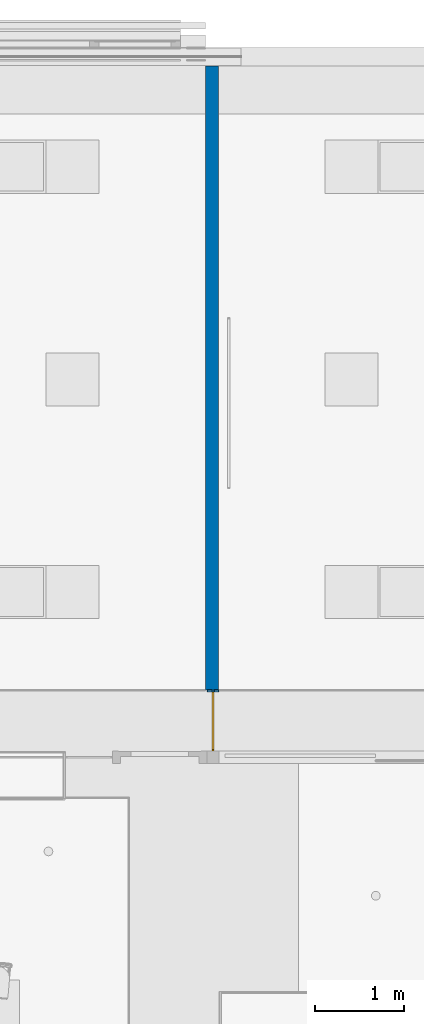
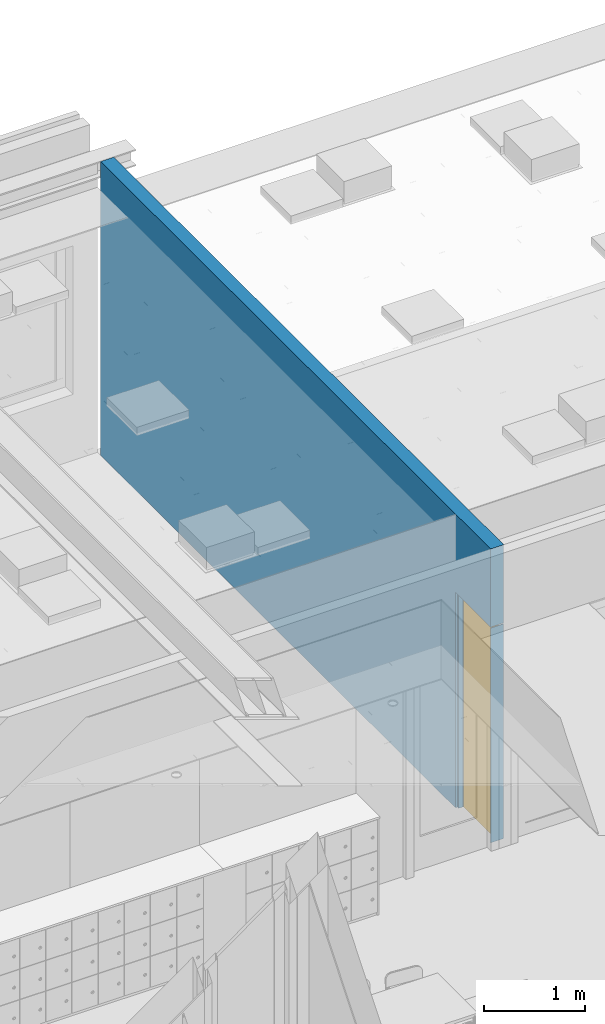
# One storey, part 38 of 260: 2 building element parts, 1 wall, 1 window, 2 openings, 1 element without a shape of its own.
"""IFC2X3 building model written with IfcOpenShell, lengths in millimetres."""

import ifcopenshell
import ifcopenshell.guid

model = None  # the IFC model being written
_history = None  # IfcOwnerHistory: only IFC2X3 demands one
_inside = {}  # id of a spatial element -> (the spatial element, [elements in it])
_under = {}  # id of a project, library or spatial element -> (it, [spatial elements below it])
_declared = {}  # id of a project -> (the project, [libraries it declares])
_typed = {}  # id of a type object -> (the type object, [elements of that type])
_made_of = {}  # id of a material, layer set ... -> (it, [elements and type objects made of it])


def new_model(schema):
    """Start an empty IFC model of exactly this schema.

    Asked for "IFC4X3", IfcOpenShell would pick the latest addendum, in which some entities
    have other attributes; the version numbers below select the first issue.
    IFC2X3 requires an IfcOwnerHistory on every rooted entity: one is made here for all.
    """
    global model, _history
    if schema == "IFC4X3":
        model = ifcopenshell.file(schema_version=(4, 3, 0, 0))
    else:
        model = ifcopenshell.file(schema=schema)
    _inside.clear()
    _under.clear()
    _declared.clear()
    _typed.clear()
    _made_of.clear()
    _history = None
    if model.schema == "IFC2X3":
        org = make("IfcOrganization", Name="unknown")
        user = make(
            "IfcPersonAndOrganization",
            ThePerson=make("IfcPerson", FamilyName="unknown"),
            TheOrganization=org,
        )
        app = make(
            "IfcApplication",
            ApplicationDeveloper=org,
            Version="unknown",
            ApplicationFullName="unknown",
            ApplicationIdentifier="unknown",
        )
        _history = make(
            "IfcOwnerHistory",
            OwningUser=user,
            OwningApplication=app,
            ChangeAction="ADDED",
            CreationDate=0,
        )
    return model


def make(cls, **values):
    """One entity of the class cls with the attributes given. An attribute that is None is left unset."""
    return model.create_entity(
        cls, **{name: value for name, value in values.items() if value is not None}
    )


def entity(cls, *values):
    """Any entity or typed value of the class cls, its attributes in the order of the schema. None: left unset."""
    e = model.create_entity(cls)
    for i, value in enumerate(values):
        if value is not None:
            e[i] = value
    return e


def rooted(cls, **values):
    """An entity with a GlobalId (a new one), such as an element, a storey or a relation."""
    return make(cls, GlobalId=ifcopenshell.guid.new(), OwnerHistory=_history, **values)


def si_unit(unit_type, name, prefix=None):
    """IfcSIUnit, for example si_unit("LENGTHUNIT", "METRE", prefix="MILLI")."""
    return make("IfcSIUnit", UnitType=unit_type, Prefix=prefix, Name=name)


def converted_unit(unit_type, name, factor, base, dimensions=None, offset=None):
    """IfcConversionBasedUnit, such as the inch: factor (a typed value) times the base unit."""
    return make(
        "IfcConversionBasedUnit"
        if offset is None
        else "IfcConversionBasedUnitWithOffset",
        ConversionOffset=offset,
        Dimensions=None
        if dimensions is None
        else entity("IfcDimensionalExponents", *dimensions),
        UnitType=unit_type,
        Name=name,
        ConversionFactor=make(
            "IfcMeasureWithUnit", ValueComponent=factor, UnitComponent=base
        ),
    )


def derived_unit(unit_type, elements):
    """IfcDerivedUnit: a product of units, each with its exponent."""
    return make(
        "IfcDerivedUnit",
        Elements=[
            make("IfcDerivedUnitElement", Unit=unit, Exponent=power)
            for unit, power in elements
        ],
        UnitType=unit_type,
    )


def money_unit(currency):
    """IfcMonetaryUnit."""
    return make("IfcMonetaryUnit", Currency=currency)


def assignment(units):
    """IfcUnitAssignment: the units of a project."""
    return None if units is None else make("IfcUnitAssignment", Units=units)


def point(xyz):
    """IfcCartesianPoint."""
    return None if xyz is None else make("IfcCartesianPoint", Coordinates=xyz)


def direction(xyz):
    """IfcDirection."""
    return None if xyz is None else make("IfcDirection", DirectionRatios=xyz)


def frame(location, z_axis=None, x_axis=None):
    """IfcAxis2Placement3D, a coordinate frame: its origin and axes. An axis left out is left unset."""
    return make(
        "IfcAxis2Placement3D",
        Location=point(location),
        Axis=direction(z_axis),
        RefDirection=direction(x_axis),
    )


def origin_with_axes():
    """The frame at (0, 0, 0) with the z axis (0, 0, 1) and the x axis (1, 0, 0) written out."""
    return frame((0.0, 0.0, 0.0), z_axis=(0.0, 0.0, 1.0), x_axis=(1.0, 0.0, 0.0))


def place(relative_to, where):
    """IfcLocalPlacement: puts the frame where relative to a parent placement (None: the world)."""
    return make(
        "IfcLocalPlacement", PlacementRelTo=relative_to, RelativePlacement=where
    )


def context(
    kind, dimensions, precision=None, world=None, true_north=None, identifier=None
):
    """IfcGeometricRepresentationContext, for example the 3D "Model" context."""
    return make(
        "IfcGeometricRepresentationContext",
        ContextIdentifier=identifier,
        ContextType=kind,
        CoordinateSpaceDimension=dimensions,
        Precision=precision,
        WorldCoordinateSystem=world,
        TrueNorth=true_north,
    )


def subcontext(parent, identifier, kind, view, scale=None):
    """IfcGeometricRepresentationSubContext, for example "Body" below "Model"."""
    return make(
        "IfcGeometricRepresentationSubContext",
        ContextIdentifier=identifier,
        ContextType=kind,
        ParentContext=parent,
        TargetScale=scale,
        TargetView=view,
    )


def project(units=None, contexts=None):
    """IfcProject with its units and contexts."""
    return rooted(
        "IfcProject",
        Name="project",
        RepresentationContexts=contexts,
        UnitsInContext=assignment(units),
    )


def spatial(cls, under=None, at=None, **own):
    """A site, building, storey or space (cls), placed at a placement, below another one or the project."""
    s = rooted(cls, ObjectPlacement=at, **own)
    if under is not None:
        _under.setdefault(under.id(), (under, []))[1].append(s)
    return s


def faces_of(points, faces, orient=None, outer=None):
    """IfcFace entities. A face is a list of loops; a loop is a list of indices into points, from 0.

    orient and outer hold one flag for each loop. By default every Orientation is true, the
    first loop of a face is its IfcFaceOuterBound and the others are IfcFaceBound.
    """
    made = []
    for i, loops in enumerate(faces):
        bounds = []
        for j, loop in enumerate(loops):
            is_outer = j == 0 if outer is None else outer[i][j]
            bounds.append(
                make(
                    "IfcFaceOuterBound" if is_outer else "IfcFaceBound",
                    Bound=make("IfcPolyLoop", Polygon=[points[k] for k in loop]),
                    Orientation=True if orient is None else orient[i][j],
                )
            )
        made.append(make("IfcFace", Bounds=bounds))
    return made


def open_shell(faces, orient=None, outer=None):
    """The faces of one IfcOpenShell. surface_model builds it on its shared points."""
    return ("IfcOpenShell", faces, orient, outer)


def faceted_brep(points, faces, orient=None, outer=None, voids=None):
    """IfcFacetedBrep: a solid bounded by flat faces; with voids (closed shells), ...WithVoids."""
    shared = [point(p) for p in points]
    hull = make("IfcClosedShell", CfsFaces=faces_of(shared, faces, orient, outer))
    if voids is None:
        return make("IfcFacetedBrep", Outer=hull)
    return make(
        "IfcFacetedBrepWithVoids",
        Outer=hull,
        Voids=[
            make(cls, CfsFaces=faces_of(shared, fs, o, b)) for cls, fs, o, b in voids
        ],
    )


def surface_model(cls, points, shells):
    """IfcFaceBasedSurfaceModel or IfcShellBasedSurfaceModel (cls): surfaces that need not close."""
    shared = [point(p) for p in points]
    made = [make(c, CfsFaces=faces_of(shared, fs, o, b)) for c, fs, o, b in shells]
    if cls == "IfcFaceBasedSurfaceModel":
        return make(cls, FbsmFaces=made)
    return make(cls, SbsmBoundary=made)


def shape(context_of_items, identifier, shape_type, items):
    """IfcShapeRepresentation: the items that make up one representation, for example the "Body"."""
    return make(
        "IfcShapeRepresentation",
        ContextOfItems=context_of_items,
        RepresentationIdentifier=identifier,
        RepresentationType=shape_type,
        Items=items,
    )


def source(mapping_origin, context_of_items, identifier, shape_type, items):
    """IfcRepresentationMap: a shape defined once, which mapped items show again and again."""
    return make(
        "IfcRepresentationMap",
        MappingOrigin=mapping_origin,
        MappedRepresentation=shape(context_of_items, identifier, shape_type, items),
    )


def transform(
    local_origin,
    x_axis=None,
    y_axis=None,
    z_axis=None,
    scale=None,
    scale2=None,
    scale3=None,
    uniform=True,
):
    """IfcCartesianTransformationOperator3D, or its non-uniform kind. x_axis, y_axis, z_axis: its Axis1, 2, 3."""
    if uniform:
        return make(
            "IfcCartesianTransformationOperator3D",
            Axis1=direction(x_axis),
            Axis2=direction(y_axis),
            LocalOrigin=point(local_origin),
            Scale=scale,
            Axis3=direction(z_axis),
        )
    return make(
        "IfcCartesianTransformationOperator3DnonUniform",
        Axis1=direction(x_axis),
        Axis2=direction(y_axis),
        LocalOrigin=point(local_origin),
        Scale=scale,
        Axis3=direction(z_axis),
        Scale2=scale2,
        Scale3=scale3,
    )


def mapped(mapping_source, mapping_target):
    """IfcMappedItem: shows the shape of a source again, moved by a transform."""
    return make(
        "IfcMappedItem", MappingSource=mapping_source, MappingTarget=mapping_target
    )


def material(Name=None, Category=None):
    """IfcMaterial."""
    return make("IfcMaterial", Name=Name, Category=Category)


def made_of(thing, what):
    """Note that an element or type object is made of a material, layer set ...; save() writes the relation."""
    if what is not None:
        _made_of.setdefault(what.id(), (what, []))[1].append(thing)
    return thing


def type_object(cls, material=None, **own):
    """A type object (cls), such as IfcWallType, which elements share."""
    return made_of(rooted(cls, **own), material)


def element(
    cls,
    number,
    at=None,
    inside=None,
    cuts=None,
    type_object=None,
    material=None,
    context=None,
    identifier="Body",
    shape_type=None,
    held_by="IfcProductDefinitionShape",
    body=None,
    shapes=None,
    **own,
):
    """One element of the class cls, such as IfcWall. Its Tag is "e" and its number.

    at: its placement. inside: the storey or other place that contains it. cuts: it is an
    opening in that element (IfcRelVoidsElement). A single representation is given by context,
    identifier, shape_type and body (its items); several are given by shapes. held_by: the class
    of the entity that holds the representations. save() writes the other relations.
    """
    e = rooted(cls, Tag="e%d" % number, ObjectPlacement=at, **own)
    if body is not None:
        shapes = [shape(context, identifier, shape_type, body)]
    if shapes is not None:
        e.Representation = make(held_by, Representations=shapes)
    if inside is not None:
        _inside.setdefault(inside.id(), (inside, []))[1].append(e)
    if cuts is not None:
        rooted(
            "IfcRelVoidsElement", RelatingBuildingElement=cuts, RelatedOpeningElement=e
        )
    if type_object is not None:
        _typed.setdefault(type_object.id(), (type_object, []))[1].append(e)
    return made_of(e, material)


def fill(opening, filler):
    """IfcRelFillsElement: the door or window that sits in an opening."""
    return rooted(
        "IfcRelFillsElement",
        RelatingOpeningElement=opening,
        RelatedBuildingElement=filler,
    )


def aggregate(whole, parts):
    """IfcRelAggregates: a whole, such as a stair, and the parts it consists of."""
    return rooted("IfcRelAggregates", RelatingObject=whole, RelatedObjects=parts)


def save(model, path):
    """Write the relations noted so far, then the file.

    IfcRelAggregates (storeys below a building ...), IfcRelContainedInSpatialStructure (elements
    in a storey), IfcRelDefinesByType, IfcRelAssociatesMaterial and IfcRelDeclares: one each for
    every whole, place, type object, material and project.
    """
    for whole, parts in _under.values():
        aggregate(whole, parts)
    for where, things in _inside.values():
        rooted(
            "IfcRelContainedInSpatialStructure",
            RelatedElements=things,
            RelatingStructure=where,
        )
    for kind, things in _typed.values():
        rooted("IfcRelDefinesByType", RelatedObjects=things, RelatingType=kind)
    for what, things in _made_of.values():
        rooted("IfcRelAssociatesMaterial", RelatedObjects=things, RelatingMaterial=what)
    for by, libraries in _declared.values():
        rooted("IfcRelDeclares", RelatingContext=by, RelatedDefinitions=libraries)
    model.write(path)


model = new_model("IFC2X3")

# Units and contexts
model_context = context("Model", 3, precision=0.01, world=origin_with_axes(), true_north=direction((0.0, 1.0)))
plan_context = context("Plan", 3, precision=0.01, world=origin_with_axes(), true_north=direction((0.0, 1.0)))
body_context = subcontext(model_context, "Body", "Model", "MODEL_VIEW")
ifc_project = project(units=[si_unit("LENGTHUNIT", "METRE", prefix="MILLI"), si_unit("AREAUNIT", "SQUARE_METRE"), si_unit("VOLUMEUNIT", "CUBIC_METRE"), converted_unit("PLANEANGLEUNIT", "DEGREE", entity("IfcPlaneAngleMeasure", 0.0174532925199), si_unit("PLANEANGLEUNIT", "RADIAN"), dimensions=[0, 0, 0, 0, 0, 0, 0]), money_unit("EUR"), converted_unit("TIMEUNIT", "Year", entity("IfcTimeMeasure", 31556926.0), si_unit("TIMEUNIT", "SECOND"), dimensions=[0, 0, 1, 0, 0, 0, 0]), si_unit("MASSUNIT", "GRAM", prefix="KILO"), si_unit("THERMODYNAMICTEMPERATUREUNIT", "DEGREE_CELSIUS"), si_unit("LUMINOUSINTENSITYUNIT", "LUMEN"), si_unit("ENERGYUNIT", "JOULE", prefix="MEGA"), derived_unit("THERMALCONDUCTANCEUNIT", [(si_unit("POWERUNIT", "WATT"), 1), (si_unit("LENGTHUNIT", "METRE"), -1), (si_unit("THERMODYNAMICTEMPERATUREUNIT", "KELVIN"), -1)]), derived_unit("SPECIFICHEATCAPACITYUNIT", [(si_unit("ENERGYUNIT", "JOULE"), 1), (si_unit("MASSUNIT", "GRAM", prefix="KILO"), -1), (si_unit("THERMODYNAMICTEMPERATUREUNIT", "KELVIN"), -1)]), derived_unit("MASSDENSITYUNIT", [(si_unit("MASSUNIT", "GRAM", prefix="KILO"), 1), (si_unit("VOLUMEUNIT", "CUBIC_METRE"), -1)])], contexts=[model_context, plan_context])

# Site, building, storey
site_placement = place(None, origin_with_axes())
site = spatial("IfcSite", under=ifc_project, at=site_placement, Name="Site", CompositionType="ELEMENT")
building_placement = place(site_placement, origin_with_axes())
building = spatial("IfcBuilding", under=site, at=building_placement, Name="Naam gebouw", CompositionType="ELEMENT")
storey_placement = place(building_placement, frame((0.0, 0.0, 3960.0), z_axis=(0.0, 0.0, 1.0), x_axis=(1.0, 0.0, 0.0)))
storey = spatial("IfcBuildingStorey", under=building, at=storey_placement, Name="verdieping", CompositionType="ELEMENT", Elevation=3960.0)

# Wall, openings, windows, building element parts
ifc_material_1 = material(Name="ALG - LICHTE SCHEIDINGSWAND")
wall_type = type_object("IfcWallType", Name="ALG LSW 150 150", PredefinedType="NOTDEFINED")
wall_placement = place(storey_placement, frame((48075.0, 39025.0, 0.0), z_axis=(0.0, 0.0, 1.0), x_axis=(0.0, 1.0, 0.0)))
wall = element("IfcWall", 1, at=wall_placement, inside=storey, type_object=wall_type, material=ifc_material_1, Name="22_GF 125 ECO DGS/2.75.2A", context=body_context, shape_type="Brep", body=[
    faceted_brep([(762.499907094, 149.999977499, 2612.0), (762.5, 149.999977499, 2600.0), (762.5, 0.0, 2600.0), (762.499907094, 0.0, 2612.0), (7802.00362198, 149.999977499, 0.0), (762.5, 149.999997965, 0.0), (62.5, 150.0, 2612.0), (62.5, 150.0, 3560.0), (7802.16258829, 149.999977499, 3559.99997098), (762.5, 0.0, 0.0), (7802.16258829, 0.0, 3559.99997098), (62.5, 0.0, 3560.0), (62.5, 0.0, 2612.0), (7802.00362198, 0.0, 0.0)], [[[0, 1, 2, 3]], [[4, 5, 1, 0, 6, 7, 8]], [[2, 1, 5, 9]], [[10, 11, 12, 3, 2, 9, 13]], [[3, 12, 6, 0]], [[9, 5, 4, 13]], [[6, 12, 11, 7]], [[11, 10, 8, 7]], [[4, 8, 10, 13]]]),
    faceted_brep([(69.5, 0.0, 0.0), (69.5, 149.99999998, 0.0), (69.5, 149.999999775, 2600.0), (69.5, 0.0, 2600.0), (62.5, 150.0, 0.0), (62.5, 0.0, 0.0), (62.5, 150.0, 2600.0), (62.5, 0.0, 2600.0)], [[[0, 1, 2, 3]], [[4, 1, 0, 5]], [[6, 2, 1, 4]], [[3, 2, 6, 7]], [[0, 3, 7, 5]], [[7, 6, 4, 5]]]),
])
opening_1_placement = place(wall_placement, frame((416.0, 0.0, 0.0), z_axis=(0.0, 0.0, 1.0), x_axis=(1.0, 0.0, 0.0)))
opening_1 = element("IfcOpeningElement", 2, at=opening_1_placement, cuts=wall, Name="32_10.04", context=body_context, shape_type="Brep", body=[
    faceted_brep([(346.5, 52.5, 2600.0), (346.5, 52.5, 0.0), (346.5, 300.0, 0.0), (346.5, 300.0, 2600.0), (-346.5, 52.5, 2600.0), (-346.5, 52.5, 0.0), (-346.5, 300.0, 0.0), (-346.5, 300.0, 2600.0)], [[[0, 1, 2, 3]], [[0, 4, 5, 1]], [[1, 5, 6, 2]], [[3, 2, 6, 7]], [[4, 0, 3, 7]], [[5, 4, 7, 6]]]),
    faceted_brep([(346.5, 52.5, 0.0), (346.5, 52.5, 2600.0), (346.5, -150.0, 2600.0), (346.5, -150.0, 0.0), (-346.5, 52.5, 0.0), (-346.5, 52.5, 2600.0), (-346.5, -150.0, 2600.0), (-346.5, -150.0, 0.0)], [[[0, 1, 2, 3]], [[0, 4, 5, 1]], [[1, 5, 6, 2]], [[3, 2, 6, 7]], [[4, 0, 3, 7]], [[5, 4, 7, 6]]]),
])
opening_2_placement = place(wall_placement, frame((750.0, 0.0, 0.0), z_axis=(0.0, 0.0, 1.0), x_axis=(1.0, 0.0, 0.0)))
opening_2 = element("IfcOpeningElement", 3, at=opening_2_placement, cuts=wall, Name="31_-", context=body_context, shape_type="Brep", body=[
    faceted_brep([(12.5, -150.0, 2600.0), (12.5, -150.0, 0.0), (12.5, 50.0, 0.0), (12.5, 50.0, 2600.0), (-12.5, -150.0, 2600.0), (-12.5, -150.0, 0.0), (-12.5, 50.0, 0.0), (-12.5, 50.0, 2600.0)], [[[0, 1, 2, 3]], [[0, 4, 5, 1]], [[1, 5, 6, 2]], [[3, 2, 6, 7]], [[4, 0, 3, 7]], [[5, 4, 7, 6]]]),
    faceted_brep([(12.5, 250.0, 0.0), (12.5, 250.0, 2600.0), (12.5, 50.0, 2600.0), (12.5, 50.0, 0.0), (-12.5, 250.0, 0.0), (-12.5, 250.0, 2600.0), (-12.5, 50.0, 2600.0), (-12.5, 50.0, 0.0)], [[[0, 1, 2, 3]], [[0, 4, 5, 1]], [[1, 5, 6, 2]], [[3, 2, 6, 7]], [[4, 0, 3, 7]], [[5, 4, 7, 6]]]),
])
window_style_1 = type_object("IfcWindowStyle", Name="R1 25", ConstructionType="NOTDEFINED", OperationType="SINGLE_PANEL", ParameterTakesPrecedence=False, Sizeable=False)
window_1_placement = place(opening_1_placement, frame((346.5, 0.0, 0.0), z_axis=(0.0, 0.0, 1.0), x_axis=(-1.0, 0.0, 0.0)))
window_1 = element("IfcWindow", 4, at=window_1_placement, inside=storey, type_object=window_style_1, Name="32_10.04", ObjectType="WINDOW", OverallHeight=2600.0, OverallWidth=693.0, context=body_context, shape_type="SurfaceModel", body=[
    faceted_brep([(673.0, -72.5, 2580.0), (693.0, -72.5, 2580.0), (693.0, -52.5, 2580.0), (673.0, -52.5, 2580.0), (673.0, -72.5, 20.0), (693.0, -72.5, 20.0), (693.0, -52.5, 20.0), (673.0, -52.5, 20.0)], [[[0, 1, 2, 3]], [[0, 4, 5, 1]], [[1, 5, 6, 2]], [[3, 2, 6, 7]], [[4, 0, 3, 7]], [[5, 4, 7, 6]]]),
    faceted_brep([(20.0, -72.5, 20.0), (0.0, -72.5, 20.0), (0.0, -52.5, 20.0), (20.0, -52.5, 20.0), (20.0, -72.5, 2580.0), (0.0, -72.5, 2580.0), (0.0, -52.5, 2580.0), (20.0, -52.5, 2580.0)], [[[0, 1, 2, 3]], [[0, 4, 5, 1]], [[1, 5, 6, 2]], [[3, 2, 6, 7]], [[4, 0, 3, 7]], [[5, 4, 7, 6]]]),
    faceted_brep([(673.0, -72.5, 20.0), (693.0, -72.5, 20.0), (693.0, -52.5, 20.0), (673.0, -52.5, 20.0), (20.0, -72.5, 20.0), (0.0, -72.5, 20.0), (0.0, -72.5, 0.0), (693.0, -72.5, 0.0), (693.0, -52.5, 0.0), (0.0, -52.5, 0.0), (0.0, -52.5, 20.0), (20.0, -52.5, 20.0)], [[[0, 1, 2, 3]], [[0, 4, 5, 6, 7, 1]], [[1, 7, 8, 2]], [[3, 2, 8, 9, 10, 11]], [[4, 0, 3, 11]], [[5, 4, 11, 10]], [[6, 5, 10, 9]], [[7, 6, 9, 8]]]),
    faceted_brep([(20.0, -72.5, 2580.0), (0.0, -72.5, 2580.0), (0.0, -52.5, 2580.0), (20.0, -52.5, 2580.0), (673.0, -72.5, 2580.0), (693.0, -72.5, 2580.0), (693.0, -72.5, 2600.0), (0.0, -72.5, 2600.0), (0.0, -52.5, 2600.0), (693.0, -52.5, 2600.0), (693.0, -52.5, 2580.0), (673.0, -52.5, 2580.0)], [[[0, 1, 2, 3]], [[0, 4, 5, 6, 7, 1]], [[1, 7, 8, 2]], [[3, 2, 8, 9, 10, 11]], [[4, 0, 3, 11]], [[5, 4, 11, 10]], [[6, 5, 10, 9]], [[7, 6, 9, 8]]]),
    surface_model("IfcShellBasedSurfaceModel", [(673.0, -72.5, 20.0), (673.0, -72.5, 2580.0), (20.0, -72.5, 2580.0), (20.0, -72.5, 20.0)], [open_shell([[[0, 1, 2, 3]]])]),
    surface_model("IfcShellBasedSurfaceModel", [(673.0, -52.5, 20.0), (20.0, -52.5, 20.0), (20.0, -52.5, 2580.0), (673.0, -52.5, 2580.0)], [open_shell([[[0, 1, 2, 3]]])]),
])
fill(opening_1, window_1)
window_style_2 = type_object("IfcWindowStyle", Name="32 glaslatten 125mm wand", ConstructionType="NOTDEFINED", OperationType="NOTDEFINED", ParameterTakesPrecedence=False, Sizeable=False)
window_2_placement = place(opening_2_placement, frame((12.5, 0.0, 0.0), z_axis=(0.0, 0.0, 1.0), x_axis=(-1.0, 0.0, 0.0)))
window_2 = element("IfcWindow", 5, at=window_2_placement, inside=storey, type_object=window_style_2, Name="31_-", ObjectType="WINDOW", OverallHeight=2600.0, OverallWidth=25.0)
fill(opening_2, window_2)
ifc_material_2 = material(Name="32 Hout binnenkozijn")
shared_shape_1 = source(origin_with_axes(), body_context, "Body", "Brep", [
    faceted_brep([(12.5, -77.0, 2600.0), (-12.5, -77.0, 2600.0), (-12.5, -77.0, 0.0), (12.5, -77.0, 0.0), (12.5, -25.0, 2600.0), (-12.5, -25.0, 2600.0), (-12.5, -25.0, 0.0), (12.5, -25.0, 0.0)], [[[0, 1, 2, 3]], [[0, 4, 5, 1]], [[1, 5, 6, 2]], [[3, 2, 6, 7]], [[4, 0, 3, 7]], [[5, 4, 7, 6]]]),
    faceted_brep([(12.5, 0.0, 2600.0), (-12.5, 0.0, 2600.0), (-12.5, 0.0, 0.0), (12.5, 0.0, 0.0), (12.5, 52.0, 2600.0), (-12.5, 52.0, 2600.0), (-12.5, 52.0, 0.0), (12.5, 52.0, 0.0)], [[[0, 1, 2, 3]], [[0, 4, 5, 1]], [[1, 5, 6, 2]], [[3, 2, 6, 7]], [[4, 0, 3, 7]], [[5, 4, 7, 6]]]),
])
building_element_part_1_placement = place(window_2_placement, origin_with_axes())
building_element_part_1 = element("IfcBuildingElementPart", 6, at=building_element_part_1_placement, material=ifc_material_2, Name="32 Hout binnenkozijn", context=body_context, shape_type="MappedRepresentation", body=[
    mapped(shared_shape_1, transform((12.5, -50.0, 0.0))),
])
ifc_material_3 = material(Name="Membraan - rubber")
shared_shape_2 = source(origin_with_axes(), body_context, "Body", "Brep", [
    faceted_brep([(12.5, -25.0, 2600.0), (-12.5, -25.0, 2600.0), (-12.5, -25.0, 0.0), (12.5, -25.0, 0.0), (12.5, 0.0, 2600.0), (-12.5, 0.0, 2600.0), (-12.5, 0.0, 0.0), (12.5, 0.0, 0.0)], [[[0, 1, 2, 3]], [[0, 4, 5, 1]], [[1, 5, 6, 2]], [[3, 2, 6, 7]], [[4, 0, 3, 7]], [[5, 4, 7, 6]]]),
])
building_element_part_2_placement = place(window_2_placement, origin_with_axes())
building_element_part_2 = element("IfcBuildingElementPart", 7, at=building_element_part_2_placement, material=ifc_material_3, Name="Membraan - rubber", context=body_context, shape_type="MappedRepresentation", body=[
    mapped(shared_shape_2, transform((12.5, -50.0, 0.0))),
])
aggregate(window_2, [building_element_part_1, building_element_part_2])

save(model, "model.ifc")
